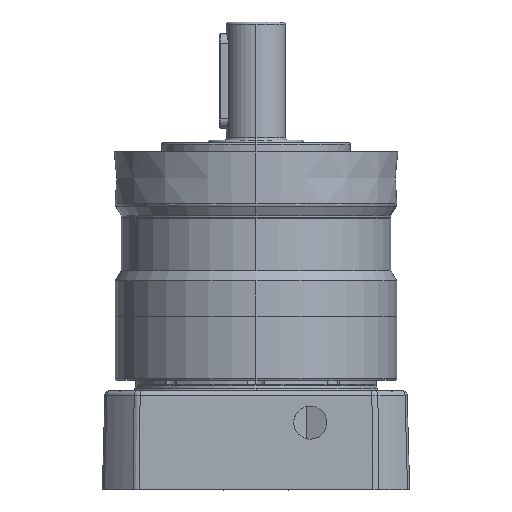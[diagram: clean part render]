
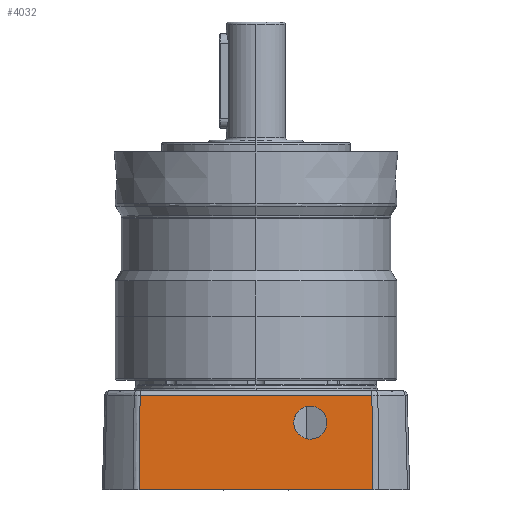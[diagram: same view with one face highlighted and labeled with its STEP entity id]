
A CAD part, left-side view. The second image highlights one B-rep face of the part: STEP entity #4032.
In plain terms, the highlighted planar face has unit normal (-1, 0, 0.026) as drawn and (-0.026, 0, -1) by its records, which use the part's own axes.
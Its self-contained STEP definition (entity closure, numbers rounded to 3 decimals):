
#94 = EDGE_CURVE ( 'NONE', #36837, #78546, #3057, .T. ) ;
#1603 = CARTESIAN_POINT ( 'NONE',  ( -46787.854, -37., -64.437 ) ) ;
#2234 =( BOUNDED_CURVE ( )  B_SPLINE_CURVE ( 3, ( #15110, #15508, #15409, #15099 ),
 .UNSPECIFIED., .F., .F. ) 
 B_SPLINE_CURVE_WITH_KNOTS ( ( 4, 4 ),
 ( 3.142, 6.283 ),
 .UNSPECIFIED. ) 
 CURVE ( )  GEOMETRIC_REPRESENTATION_ITEM ( )  RATIONAL_B_SPLINE_CURVE ( ( 1., 0.333, 0.333, 1. ) ) 
 REPRESENTATION_ITEM ( '' )  );
#3057 = LINE ( 'NONE', #3605, #47344 ) ;
#3409 = DIRECTION ( 'NONE',  ( -1., -0.009, 0.026 ) ) ;
#3605 = CARTESIAN_POINT ( 'NONE',  ( -46806.406, -50.806, -63.951 ) ) ;
#3785 = DIRECTION ( 'NONE',  ( 0., -1., 0. ) ) ;
#4032 = ADVANCED_FACE ( 'NONE', ( #21173, #85584 ), #35721, .F. ) ;
#8258 = CARTESIAN_POINT ( 'NONE',  ( -46766.354, -49.409, -65. ) ) ;
#8564 = EDGE_LOOP ( 'NONE', ( #15276, #82036 ) ) ;
#8792 = DIRECTION ( 'NONE',  ( 1., -0.009, -0.026 ) ) ;
#10792 = ORIENTED_EDGE ( 'NONE', *, *, #70595, .F. ) ;
#12108 = ORIENTED_EDGE ( 'NONE', *, *, #42362, .F. ) ;
#15099 = CARTESIAN_POINT ( 'NONE',  ( -46787.854, -23., -64.437 ) ) ;
#15110 = CARTESIAN_POINT ( 'NONE',  ( -46801.854, -23., -64.07 ) ) ;
#15240 = CARTESIAN_POINT ( 'NONE',  ( -46787.854, -23., -64.437 ) ) ;
#15276 = ORIENTED_EDGE ( 'NONE', *, *, #25767, .F. ) ;
#15409 = CARTESIAN_POINT ( 'NONE',  ( -46787.854, -9., -64.437 ) ) ;
#15508 = CARTESIAN_POINT ( 'NONE',  ( -46801.854, -9., -64.07 ) ) ;
#17098 = VERTEX_POINT ( 'NONE', #40023 ) ;
#20387 = LINE ( 'NONE', #49083, #56180 ) ;
#21173 = FACE_BOUND ( 'NONE', #8564, .T. ) ;
#25767 = EDGE_CURVE ( 'NONE', #65145, #69750, #2234, .T. ) ;
#27052 = AXIS2_PLACEMENT_3D ( 'NONE', #34251, #34168, #34146 ) ;
#27678 = ORIENTED_EDGE ( 'NONE', *, *, #94, .F. ) ;
#28688 = VECTOR ( 'NONE', #3409, 1000. ) ;
#28758 = CARTESIAN_POINT ( 'NONE',  ( -46801.854, -23., -64.07 ) ) ;
#29003 = DIRECTION ( 'NONE',  ( 0., 1., 0. ) ) ;
#33788 = EDGE_LOOP ( 'NONE', ( #27678, #10792, #12108, #56566 ) ) ;
#34146 = DIRECTION ( 'NONE',  ( 1., 0., -0.026 ) ) ;
#34168 = DIRECTION ( 'NONE',  ( 0.026, 0., 1. ) ) ;
#34251 = CARTESIAN_POINT ( 'NONE',  ( -46766.354, -50.806, -65. ) ) ;
#35721 = PLANE ( 'NONE',  #27052 ) ;
#36837 = VERTEX_POINT ( 'NONE', #50270 ) ;
#37965 = CARTESIAN_POINT ( 'NONE',  ( -46806.406, -49.037, -63.951 ) ) ;
#38742 = EDGE_CURVE ( 'NONE', #78546, #44996, #20387, .T. ) ;
#40023 = CARTESIAN_POINT ( 'NONE',  ( -46766.354, 49.409, -65. ) ) ;
#42362 = EDGE_CURVE ( 'NONE', #44996, #17098, #67136, .T. ) ;
#44996 = VERTEX_POINT ( 'NONE', #8258 ) ;
#46534 = LINE ( 'NONE', #63743, #28688 ) ;
#47344 = VECTOR ( 'NONE', #3785, 1000. ) ;
#49083 = CARTESIAN_POINT ( 'NONE',  ( -46806.406, -49.037, -63.951 ) ) ;
#49318 = VECTOR ( 'NONE', #29003, 1000. ) ;
#50270 = CARTESIAN_POINT ( 'NONE',  ( -46806.406, 49.037, -63.951 ) ) ;
#53454 =( BOUNDED_CURVE ( )  B_SPLINE_CURVE ( 3, ( #15240, #1603, #69000, #28758 ),
 .UNSPECIFIED., .F., .F. ) 
 B_SPLINE_CURVE_WITH_KNOTS ( ( 4, 4 ),
 ( 0., 3.142 ),
 .UNSPECIFIED. ) 
 CURVE ( )  GEOMETRIC_REPRESENTATION_ITEM ( )  RATIONAL_B_SPLINE_CURVE ( ( 1., 0.333, 0.333, 1. ) ) 
 REPRESENTATION_ITEM ( '' )  );
#54273 = EDGE_CURVE ( 'NONE', #69750, #65145, #53454, .T. ) ;
#55919 = CARTESIAN_POINT ( 'NONE',  ( -46801.854, -23., -64.07 ) ) ;
#56180 = VECTOR ( 'NONE', #8792, 1000. ) ;
#56566 = ORIENTED_EDGE ( 'NONE', *, *, #38742, .F. ) ;
#63743 = CARTESIAN_POINT ( 'NONE',  ( -46766.354, 49.409, -65. ) ) ;
#65145 = VERTEX_POINT ( 'NONE', #55919 ) ;
#67136 = LINE ( 'NONE', #81836, #49318 ) ;
#69000 = CARTESIAN_POINT ( 'NONE',  ( -46801.854, -37., -64.07 ) ) ;
#69750 = VERTEX_POINT ( 'NONE', #86695 ) ;
#70595 = EDGE_CURVE ( 'NONE', #17098, #36837, #46534, .T. ) ;
#78546 = VERTEX_POINT ( 'NONE', #37965 ) ;
#81836 = CARTESIAN_POINT ( 'NONE',  ( -46766.354, -50.806, -65. ) ) ;
#82036 = ORIENTED_EDGE ( 'NONE', *, *, #54273, .F. ) ;
#85584 = FACE_OUTER_BOUND ( 'NONE', #33788, .T. ) ;
#86695 = CARTESIAN_POINT ( 'NONE',  ( -46787.854, -23., -64.437 ) ) ;
